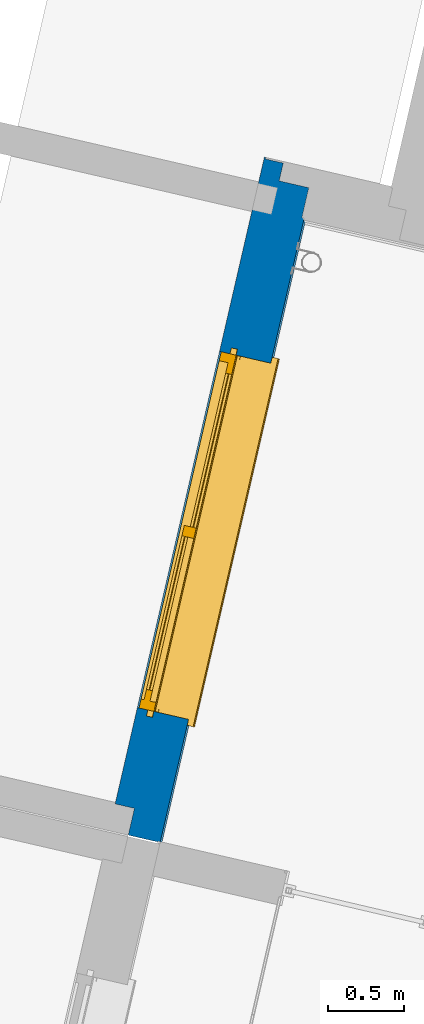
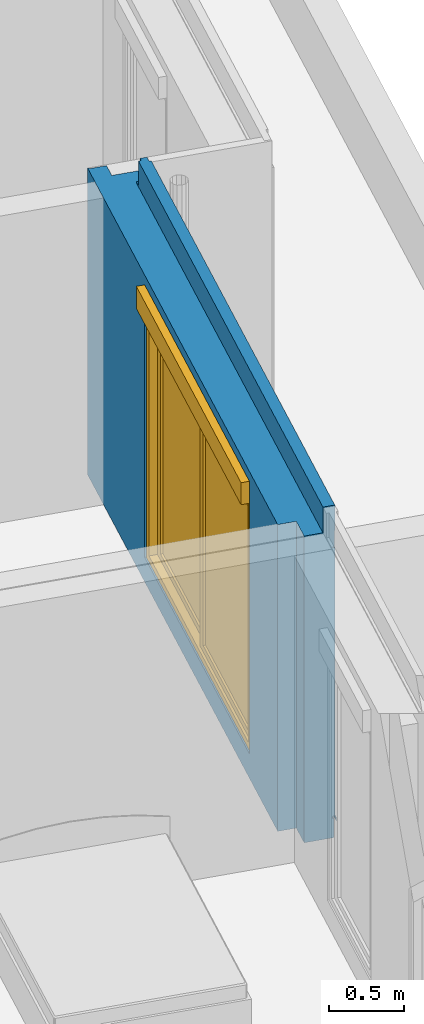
# One storey, part 26 of 119: 1 wall, 1 window, 1 opening.
"""IFC2X3 building model written with IfcOpenShell, lengths in metres."""

from ifc_helpers import new_model, entity, si_unit, converted_unit, derived_unit, money_unit, direction, frame, origin_with_axes, place, context, subcontext, project, spatial, open_shell, faceted_brep, surface_model, source, transform, mapped, material, material_list, type_object, element, fill, save


model = new_model("IFC2X3")

# Units and contexts
model_context = context("Model", 3, precision=1e-05, world=origin_with_axes(), true_north=direction((0.0, 1.0)))
body_context = subcontext(model_context, "Body", "Model", "MODEL_VIEW")
ifc_project = project(units=[si_unit("LENGTHUNIT", "METRE"), si_unit("AREAUNIT", "SQUARE_METRE"), si_unit("VOLUMEUNIT", "CUBIC_METRE"), converted_unit("PLANEANGLEUNIT", "DEGREE", entity("IfcPlaneAngleMeasure", 0.0174532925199), si_unit("PLANEANGLEUNIT", "RADIAN"), dimensions=[0, 0, 0, 0, 0, 0, 0]), si_unit("SOLIDANGLEUNIT", "STERADIAN"), money_unit("EUR"), converted_unit("TIMEUNIT", "Year", entity("IfcTimeMeasure", 31556926.0), si_unit("TIMEUNIT", "SECOND"), dimensions=[0, 0, 1, 0, 0, 0, 0]), si_unit("MASSUNIT", "GRAM", prefix="KILO"), si_unit("THERMODYNAMICTEMPERATUREUNIT", "DEGREE_CELSIUS"), si_unit("LUMINOUSINTENSITYUNIT", "LUMEN"), si_unit("ENERGYUNIT", "JOULE", prefix="MEGA"), derived_unit("THERMALCONDUCTANCEUNIT", [(si_unit("POWERUNIT", "WATT"), 1), (si_unit("LENGTHUNIT", "METRE"), -1), (si_unit("THERMODYNAMICTEMPERATUREUNIT", "KELVIN"), -1)]), derived_unit("SPECIFICHEATCAPACITYUNIT", [(si_unit("ENERGYUNIT", "JOULE"), 1), (si_unit("MASSUNIT", "GRAM", prefix="KILO"), -1), (si_unit("THERMODYNAMICTEMPERATUREUNIT", "KELVIN"), -1)]), derived_unit("MASSDENSITYUNIT", [(si_unit("MASSUNIT", "GRAM", prefix="KILO"), 1), (si_unit("VOLUMEUNIT", "CUBIC_METRE"), -1)])], contexts=[model_context])

# Site, building, storey
site_placement = place(None, origin_with_axes())
site = spatial("IfcSite", under=ifc_project, at=site_placement, Name="Site", CompositionType="ELEMENT")
building_placement = place(site_placement, origin_with_axes())
building = spatial("IfcBuilding", under=site, at=building_placement, Name="Bâtiment", CompositionType="ELEMENT")
storey_placement = place(building_placement, origin_with_axes())
storey = spatial("IfcBuildingStorey", under=building, at=storey_placement, Name="Rez-de-chaussée", CompositionType="ELEMENT", Elevation=0.0)

# Wall, opening, window
ifc_material_1 = material(Name="Métal - Aluminium")
ifc_material_2 = material(Name="Finition ext - Crépis")
ifc_material_3 = material(Name="Etanchéité - Bitume")
ifc_material_4 = material(Name="Béton cellulaire")
ifc_material_5 = material(Name="Mortier")
ifc_material_6 = material(Name="Isolation - Polystyrène expansé")
ifc_material_7 = material(Name="Bloc ELITHERM")
ifc_material_8 = material(Name="Isolation - Polystyrène extrudé")
ifc_material_9 = material(Name="Finition int - Plaque de plâtre")
ifc_material_list = material_list([ifc_material_1, ifc_material_2, ifc_material_3, ifc_material_4, ifc_material_5, ifc_material_6, ifc_material_7, ifc_material_8, ifc_material_9])
wall_type = type_object("IfcWallType", Name="Mur ALKERN + planelle 21 TERRASSE RDC 356 x 2720", PredefinedType="USERDEFINED")
wall_placement = place(storey_placement, frame((-1.10169279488, 6.64422506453, 0.0), z_axis=(0.0, 0.0, 1.0), x_axis=(-0.224876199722, -0.974387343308, 0.0)))
wall = element("IfcWall", 1, at=wall_placement, inside=storey, type_object=wall_type, material=ifc_material_list, Name="Mue bloc ALKERN isolé", ObjectType="SOLIDWALL", context=body_context, shape_type="Brep", body=[
    faceted_brep([(0.94848943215, -0.03, 0.170774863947), (0.94848943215, -0.0035607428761, 0.162931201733), (-0.00839013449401, -0.0035607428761, 0.162931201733), (-0.0300000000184, -0.025413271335, 0.169414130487), (-0.031045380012, -0.0264705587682, 0.169727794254), (-0.0310453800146, -0.03, 0.170774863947), (0.94848943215, -0.0035607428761, 0.14), (0.94848943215, -0.0300000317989, 0.176532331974), (0.94848943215, -0.0300000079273, 0.2), (0.94848943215, -0.0310453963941, 0.2), (0.94848943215, -0.0310453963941, 0.169727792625), (0.94848943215, -0.03, 0.169414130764), (0.94848943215, -0.00479482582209, 0.161852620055), (0.94848943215, -0.00479482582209, 0.14), (3.34848943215, -0.0035607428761, 0.14), (3.34848943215, -0.0035607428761, 0.162931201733), (4.17743925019, -0.0035607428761, 0.162931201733), (4.17743925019, -0.0035607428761, 0.133633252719), (-0.00479484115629, -0.0035607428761, 0.133633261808), (-0.00479484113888, -0.0035607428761, 0.160000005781), (-0.00479484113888, -0.0035607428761, 0.161852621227), (-0.00479484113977, -0.00479482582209, 0.161852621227), (-0.0300000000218, -0.03, 0.169414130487), (-0.0310453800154, -0.0310453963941, 0.169727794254), (-0.0310453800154, -0.0310453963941, 0.176532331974), (-0.0310453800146, -0.0300000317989, 0.176532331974), (-0.0310453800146, -0.03, 0.207793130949), (0.94848943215, -0.03, 0.207793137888), (0.94848943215, -0.0310453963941, 0.207793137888), (-0.0310453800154, -0.0310453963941, 0.207793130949), (-0.00479484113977, -0.00479482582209, 0.160000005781), (-0.00479484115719, -0.00479482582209, 0.133633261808), (4.17743925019, -0.00479482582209, 0.133633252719), (4.17743925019, -0.00479482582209, 0.161852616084), (3.34848943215, -0.00479482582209, 0.161852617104), (3.34848943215, -0.00479482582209, 0.14), (3.34848943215, -0.03, 0.170774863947), (3.34848943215, -0.03, 0.169414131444), (3.34848943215, -0.0310453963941, 0.169727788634), (3.34848943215, -0.0310453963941, 0.2), (3.34848943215, -0.0300000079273, 0.2), (3.34848943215, -0.0300000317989, 0.176532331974), (4.17743925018, -0.03, 0.170774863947), (4.17743925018, -0.03, 0.169414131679), (4.17743925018, -0.0300000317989, 0.176532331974), (4.17743925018, -0.03, 0.207793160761), (4.17743925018, -0.0310453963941, 0.207793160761), (4.17743925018, -0.0310453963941, 0.169727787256), (3.34848943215, -0.0310453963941, 0.207793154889), (3.34848943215, -0.03, 0.207793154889)], [[[0, 1, 2, 3, 4, 5]], [[6, 1, 0, 7, 8, 9, 10, 11, 12, 13]], [[14, 15, 16, 17, 18, 19, 20, 2, 1, 6]], [[3, 2, 20, 21, 22]], [[23, 4, 3, 22]], [[23, 24, 25, 5, 4]], [[7, 0, 5, 25]], [[8, 7, 25, 26, 27]], [[9, 8, 27, 28]], [[10, 9, 28, 29, 24, 23]], [[11, 10, 23, 22]], [[12, 11, 22, 21]], [[13, 12, 21, 30, 31, 32, 33, 34, 35]], [[14, 6, 13, 35]], [[36, 15, 14, 35, 34, 37, 38, 39, 40, 41]], [[15, 36, 42, 16]], [[43, 33, 32, 17, 16, 42, 44, 45, 46, 47]], [[31, 18, 17, 32]], [[30, 19, 18, 31]], [[20, 19, 30, 21]], [[25, 24, 29, 26]], [[27, 26, 29, 28]], [[37, 34, 33, 43]], [[38, 37, 43, 47]], [[39, 38, 47, 46, 48]], [[40, 39, 48, 49]], [[41, 40, 49, 45, 44]], [[36, 41, 44, 42]], [[48, 46, 45, 49]]]),
    faceted_brep([(0.94848943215, -0.0149999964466, 0.2), (0.94848943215, -0.0150000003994, 0.176532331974), (-0.0300000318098, -0.0149999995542, 0.176532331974), (-0.0300000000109, -0.0149999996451, 0.207793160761), (-0.0300000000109, -0.0150000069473, 2.72), (4.17743925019, -0.0150000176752, 2.72000000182), (4.17743925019, -0.0150000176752, 2.51), (4.17243923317, -0.0150000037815, 2.51), (4.17243923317, -0.0150000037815, 2.375), (4.17743925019, -0.0150000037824, 2.375), (4.17743925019, -0.0150000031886, 0.176532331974), (3.34848943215, -0.0150000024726, 0.176532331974), (3.34848943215, -0.0149999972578, 0.2), (3.34848943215, -0.0150000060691, 2.25), (0.94848943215, -0.0150000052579, 2.25), (0.94848943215, -0.0300000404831, 0.2), (0.94848943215, -0.0300000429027, 0.176532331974), (-0.0300000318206, -0.0300000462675, 0.176532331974), (-0.0300000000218, -0.0300000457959, 0.207793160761), (-0.0300000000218, -0.0300000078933, 2.72), (4.17743925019, -0.0299999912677, 2.72000000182), (4.17743925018, -0.0300000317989, 2.51), (4.17243963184, -0.0299999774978, 2.51), (4.17243963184, -0.0299999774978, 2.375), (4.17743925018, -0.0299999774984, 2.375), (4.17743925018, -0.0300000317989, 0.176532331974), (3.34848943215, -0.0300000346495, 0.176532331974), (3.34848943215, -0.030000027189, 0.2), (3.34848943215, -0.0299999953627, 2.25), (0.94848943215, -0.0300000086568, 2.25)], [[[0, 1, 2, 3, 4, 5, 6, 7, 8, 9, 10, 11, 12, 13, 14]], [[1, 0, 15, 16]], [[1, 16, 17, 2]], [[18, 3, 2, 17]], [[18, 19, 4, 3]], [[5, 4, 19, 20]], [[5, 20, 21, 6]], [[21, 22, 7, 6]], [[23, 8, 7, 22]], [[9, 8, 23, 24]], [[24, 25, 10, 9]], [[26, 11, 10, 25]], [[27, 12, 11, 26]], [[12, 27, 28, 13]], [[13, 28, 29, 14]], [[15, 0, 14, 29]], [[16, 15, 29, 28, 27, 26, 25, 24, 23, 22, 21, 20, 19, 18, 17]]]),
    faceted_brep([(0.94848943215, -0.0300000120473, 0.160000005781), (0.94848943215, -0.02, 0.160000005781), (-0.0300000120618, -0.02, 0.160000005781), (-0.0300000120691, -0.0300000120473, 0.160000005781), (0.94848943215, -0.02, 0.14), (0.94848943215, -0.0299999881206, 0.14), (3.34848943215, -0.02, 0.14), (3.34848943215, -0.02, 0.160000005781), (4.17743925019, -0.02, 0.160000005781), (4.17743925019, -0.02, 0.0), (2.7816257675, -0.02, 0.0), (2.7816257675, -0.02, 0.01), (-0.0299999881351, -0.02, 0.01), (-0.0299999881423, -0.0299999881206, 0.01), (-0.0299999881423, -0.0299999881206, 0.0), (4.17743925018, -0.0300000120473, 0.0), (4.17743925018, -0.0300000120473, 0.160000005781), (3.34848943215, -0.0300000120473, 0.160000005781), (3.34848943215, -0.0299999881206, 0.14)], [[[0, 1, 2, 3]], [[4, 1, 0, 5]], [[6, 7, 8, 9, 10, 11, 12, 2, 1, 4]], [[13, 3, 2, 12]], [[5, 0, 3, 13, 14, 15, 16, 17, 18]], [[6, 4, 5, 18]], [[17, 7, 6, 18]], [[7, 17, 16, 8]], [[15, 9, 8, 16]], [[10, 9, 15, 14]], [[13, 11, 10, 14]], [[13, 12, 11]]]),
    faceted_brep([(-0.0780000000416, -0.03, 2.51999999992), (-0.0780000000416, -0.03, 2.72), (4.17743925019, -0.03, 2.72000000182), (4.17743925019, -0.03, 2.51999999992), (-0.0780000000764, -0.0780000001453, 2.72), (-0.0780000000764, -0.0780000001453, 2.51999999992), (4.17743925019, -0.0780000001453, 2.72000000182), (4.17743925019, -0.0780000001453, 2.51999999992)], [[[0, 1, 2, 3]], [[4, 1, 0, 5]], [[1, 4, 6, 2]], [[7, 3, 2, 6]], [[5, 0, 3, 7]], [[4, 5, 7, 6]]]),
    faceted_brep([(4.17743925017, -0.098000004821, 2.51), (4.17743925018, -0.03, 2.51), (4.17743925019, -0.03, 2.52), (4.17743925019, -0.098000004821, 2.52), (4.17743925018, -0.03, 2.50955000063), (4.17743925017, -0.098, 2.50955000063), (-0.0980000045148, -0.03, 2.50955002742), (-0.0980000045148, -0.03, 2.52), (-0.0980000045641, -0.0980000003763, 2.52), (-0.0980000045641, -0.098, 2.50955002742)], [[[0, 1, 2, 3]], [[4, 1, 0, 5]], [[1, 4, 6, 7, 2]], [[7, 8, 3, 2]], [[5, 0, 3, 8, 9]], [[4, 5, 9, 6]], [[8, 7, 6, 9]]]),
    faceted_brep([(-0.0515607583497, -0.0780000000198, 2.51999999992), (-0.0515607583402, -0.0780000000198, 2.72), (4.17743925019, -0.0780000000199, 2.72000000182), (4.17743925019, -0.0780000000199, 2.51999999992), (-0.0515607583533, -0.0979999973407, 2.72), (-0.0515607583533, -0.0979999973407, 2.51999999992), (4.17743925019, -0.098000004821, 2.72000000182), (4.17743925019, -0.098000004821, 2.51999999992)], [[[0, 1, 2, 3]], [[4, 1, 0, 5]], [[1, 4, 6, 2]], [[7, 3, 2, 6]], [[5, 0, 3, 7]], [[4, 5, 7, 6]]]),
    faceted_brep([(0.94848943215, -0.0310453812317, 0.169727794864), (0.94848943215, -0.03, 0.169414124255), (-0.229999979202, -0.03, 0.169414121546), (-0.229999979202, -0.0310453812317, 0.169727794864), (0.94848943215, -0.0300000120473, 0.160000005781), (0.94848943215, -0.0310453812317, 0.2), (0.94848943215, -0.229999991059, 0.2), (0.94848943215, -0.229999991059, 0.14), (0.94848943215, -0.0300000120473, 0.14), (-0.229999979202, -0.0300000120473, 0.160000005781), (-0.229999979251, -0.0979999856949, 2.50955001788), (-0.229999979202, -0.03, 2.50955001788), (-0.229999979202, -0.03, 0.207793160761), (-0.229999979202, -0.0310453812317, 0.207793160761), (-0.229999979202, -0.03, 0.0), (-0.229999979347, -0.229999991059, 0.0), (-0.229999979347, -0.229999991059, 2.50955001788), (0.94848943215, -0.0310453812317, 0.207793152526), (0.94848943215, -0.03, 0.207793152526), (0.94848943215, -0.03, 2.25), (0.94848943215, -0.218560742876, 2.25), (0.94848943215, -0.229999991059, 2.25), (4.17743925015, -0.229999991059, 2.50955001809), (4.17743925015, -0.229999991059, 0.0), (0.94848943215, -0.229999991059, 2.43), (3.34848943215, -0.229999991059, 2.43), (3.34848943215, -0.229999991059, 2.25), (3.34848943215, -0.229999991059, 0.2), (3.34848943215, -0.229999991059, 0.14), (3.34848943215, -0.0300000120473, 0.14), (3.34848943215, -0.0300000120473, 0.160000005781), (4.17743925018, -0.0300000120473, 0.160000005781), (4.17743925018, -0.03, 0.0), (4.17743925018, -0.03, 2.50955001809), (4.17743925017, -0.0979999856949, 2.50955001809), (4.17743925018, -0.03, 0.207793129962), (3.34848943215, -0.03, 0.207793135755), (3.34848943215, -0.03, 2.25), (3.34848943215, -0.218560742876, 2.25), (0.94848943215, -0.218560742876, 2.43), (4.17743925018, -0.03, 0.169414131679), (4.17743925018, -0.0310453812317, 0.169727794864), (4.17743925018, -0.0310453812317, 0.207793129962), (3.34848943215, -0.218560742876, 2.43), (3.34848943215, -0.0310453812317, 0.2), (3.34848943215, -0.0310453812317, 0.207793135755), (3.34848943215, -0.0310453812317, 0.169727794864), (3.34848943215, -0.03, 0.169414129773)], [[[0, 1, 2, 3]], [[4, 1, 0, 5, 6, 7, 8]], [[1, 4, 9, 2]], [[10, 11, 12, 13, 3, 2, 9, 14, 15, 16]], [[5, 0, 3, 13, 17]], [[6, 5, 17, 18, 19, 20, 21]], [[22, 16, 15, 23], [7, 6, 21, 24, 25, 26, 27, 28]], [[29, 8, 7, 28]], [[29, 30, 31, 32, 14, 9, 4, 8]], [[33, 11, 10, 34]], [[19, 18, 12, 11, 33, 35, 36, 37]], [[13, 12, 18, 17]], [[14, 32, 23, 15]], [[34, 10, 16, 22]], [[20, 19, 37, 38]], [[20, 39, 24, 21]], [[40, 41, 42, 35, 33, 34, 22, 23, 32, 31]], [[24, 39, 43, 25]], [[26, 25, 43, 38]], [[44, 27, 26, 38, 37, 36, 45]], [[46, 47, 30, 29, 28, 27, 44]], [[30, 47, 40, 31]], [[35, 42, 45, 36]], [[38, 43, 39, 20]], [[47, 46, 41, 40]], [[46, 44, 45, 42, 41]]]),
    faceted_brep([(0.94848943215, -0.289560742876, 0.2), (0.94848943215, -0.289560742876, 0.14), (0.94848943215, -0.22999997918, 0.14), (0.94848943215, -0.22999997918, 0.2), (0.94848943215, -0.22999997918, 2.25), (0.94848943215, -0.22999997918, 2.43), (0.94848943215, -0.350000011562, 2.43), (0.94848943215, -0.350000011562, 2.25), (0.94848943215, -0.350000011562, 0.2), (3.34848943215, -0.289560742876, 0.2), (3.34848943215, -0.289560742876, 0.14), (3.34848943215, -0.22999997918, 0.14), (-0.350000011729, -0.22999997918, 2.50955001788), (3.99743925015, -0.22999997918, 2.50955), (3.99743925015, -0.22999997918, 0.0), (-0.350000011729, -0.22999997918, 0.0), (3.34848943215, -0.22999997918, 0.2), (3.34848943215, -0.22999997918, 2.25), (3.34848943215, -0.22999997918, 2.43), (3.34848943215, -0.350000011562, 2.43), (3.99743925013, -0.350000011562, 2.50955), (-0.350000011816, -0.350000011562, 2.50955001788), (-0.350000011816, -0.350000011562, 0.0), (3.99743925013, -0.350000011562, 0.0), (3.34848943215, -0.350000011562, 2.25), (3.34848943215, -0.350000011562, 0.2)], [[[0, 1, 2, 3, 4, 5, 6, 7, 8]], [[0, 9, 10, 1]], [[11, 2, 1, 10]], [[12, 13, 14, 15], [11, 16, 17, 18, 5, 4, 3, 2]], [[18, 19, 6, 5]], [[20, 21, 22, 23], [8, 7, 6, 19, 24, 25]], [[9, 0, 8, 25]], [[16, 11, 10, 9, 25, 24, 19, 18, 17]], [[21, 20, 13, 12]], [[14, 13, 20, 23]], [[15, 14, 23, 22]], [[22, 21, 12, 15]]]),
    faceted_brep([(3.99743925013, -0.350000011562, 0.0), (-0.360000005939, -0.350000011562, 0.0), (-0.360000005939, -0.350000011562, 2.50955002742), (3.99743925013, -0.350000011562, 2.50955), (3.34848943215, -0.350000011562, 2.25), (3.34848943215, -0.350000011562, 2.43), (0.94848943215, -0.350000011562, 2.43), (0.94848943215, -0.350000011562, 2.25), (0.94848943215, -0.350000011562, 0.2), (3.34848943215, -0.350000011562, 0.2), (3.99743925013, -0.359999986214, 0.0), (-0.360000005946, -0.359999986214, 0.0), (-0.360000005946, -0.359999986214, 2.50955002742), (3.99743925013, -0.359999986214, 2.50955), (3.34848943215, -0.359999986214, 2.25), (3.34848943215, -0.359999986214, 2.43), (0.94848943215, -0.359999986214, 2.43), (0.94848943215, -0.359999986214, 2.25), (0.94848943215, -0.359999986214, 0.2), (3.34848943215, -0.359999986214, 0.2)], [[[0, 1, 2, 3], [4, 5, 6, 7, 8, 9]], [[10, 11, 1, 0]], [[12, 2, 1, 11]], [[3, 2, 12, 13]], [[13, 10, 0, 3]], [[5, 4, 14, 15]], [[6, 5, 15, 16]], [[7, 6, 16, 17]], [[7, 17, 18, 8]], [[8, 18, 19, 9]], [[14, 4, 9, 19]], [[11, 10, 13, 12], [15, 14, 19, 18, 17, 16]]]),
])
opening_placement = place(wall_placement, frame((2.14848943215, 0.0, 0.2), z_axis=(0.0, 0.0, 1.0), x_axis=(1.0, 0.0, 0.0)))
opening = element("IfcOpeningElement", 2, at=opening_placement, cuts=wall, Name="MEN 03", context=body_context, shape_type="Brep", body=[
    faceted_brep([(-1.2, -0.248560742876, 0.0), (1.2, -0.248560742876, 0.0), (1.2, -0.849999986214, 0.0), (-1.2, -0.849999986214, 0.0), (-1.2, -0.248560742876, 2.05), (1.2, -0.248560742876, 2.05), (1.2, -0.849999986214, 2.05), (-1.2, -0.849999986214, 2.05)], [[[0, 1, 2, 3]], [[0, 4, 5, 1]], [[1, 5, 6, 2]], [[3, 2, 6, 7]], [[4, 0, 3, 7]], [[5, 4, 7, 6]]]),
    faceted_brep([(-1.2, -0.248560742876, 0.0), (-1.2, -0.248560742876, 2.05), (-1.2, 0.352878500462, 2.05), (-1.2, 0.352878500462, 0.0), (1.2, -0.248560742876, 0.0), (1.2, -0.248560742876, 2.05), (1.2, 0.352878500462, 2.05), (1.2, 0.352878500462, 0.0)], [[[0, 1, 2, 3]], [[0, 4, 5, 1]], [[1, 5, 6, 2]], [[3, 2, 6, 7]], [[4, 0, 3, 7]], [[5, 4, 7, 6]]]),
    faceted_brep([(-1.2, -0.248560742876, 0.0), (-1.2, -0.248560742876, 2.05), (-1.2, 0.352878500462, 2.05), (-1.2, 0.352878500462, 0.0), (1.2, -0.248560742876, 0.0), (1.2, -0.248560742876, 2.05), (1.2, 0.352878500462, 2.05), (1.2, 0.352878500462, 0.0)], [[[0, 1, 2, 3]], [[0, 4, 5, 1]], [[1, 5, 6, 2]], [[3, 2, 6, 7]], [[4, 0, 3, 7]], [[5, 4, 7, 6]]]),
    faceted_brep([(-1.2, -0.218560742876, 2.05), (1.2, -0.218560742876, 2.05), (1.2, -0.819999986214, 2.05), (-1.2, -0.819999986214, 2.05), (-1.2, -0.218560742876, 2.23), (1.2, -0.218560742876, 2.23), (1.2, -0.819999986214, 2.23), (-1.2, -0.819999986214, 2.23)], [[[0, 1, 2, 3]], [[0, 4, 5, 1]], [[1, 5, 6, 2]], [[3, 2, 6, 7]], [[4, 0, 3, 7]], [[5, 4, 7, 6]]]),
    faceted_brep([(-1.2, -0.289560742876, 0.0), (1.2, -0.289560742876, 0.0), (1.2, 0.311878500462, 0.0), (-1.2, 0.311878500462, 0.0), (-1.2, -0.289560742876, -0.06), (1.2, -0.289560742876, -0.06), (1.2, 0.311878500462, -0.06), (-1.2, 0.311878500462, -0.06)], [[[0, 1, 2, 3]], [[0, 4, 5, 1]], [[1, 5, 6, 2]], [[3, 2, 6, 7]], [[4, 0, 3, 7]], [[5, 4, 7, 6]]]),
])
window_style = type_object("IfcWindowStyle", Name="Baie générique 2017 v2", ConstructionType="NOTDEFINED", OperationType="NOTDEFINED", ParameterTakesPrecedence=False, Sizeable=False)
shared_shape = source(origin_with_axes(), body_context, "Body", "SurfaceModel", [
    faceted_brep([(1.2, 0.1, 0.0), (1.2, 0.0, 0.0), (-1.2, 0.0, 0.0), (-1.2, 0.1, 0.0), (1.2, 0.1, 2.05), (1.2, 0.0, 2.05), (-1.2, 0.0, 2.05), (1.14, 0.0, 0.05), (-1.14, 0.0, 0.05), (-1.14, 0.0, 2.0), (1.14, 0.0, 2.0), (-1.2, 0.1, 2.05), (1.14, 0.1, 0.05), (1.14, 0.1, 2.0), (-1.14, 0.1, 2.0), (-1.14, 0.1, 0.05)], [[[0, 1, 2, 3]], [[4, 5, 1, 0]], [[1, 5, 6, 2], [7, 8, 9, 10]], [[3, 2, 6, 11]], [[0, 3, 11, 4], [12, 13, 14, 15]], [[11, 6, 5, 4]], [[15, 8, 7, 12]], [[14, 9, 8, 15]], [[13, 10, 9, 14]], [[12, 7, 10, 13]]]),
    faceted_brep([(1.14, 0.04, 0.05), (-0.035, 0.04, 0.05), (-0.035, 0.04, 2.0), (1.14, 0.04, 2.0), (0.035, 0.04, 1.93), (0.035, 0.04, 0.1), (1.07, 0.04, 0.1), (1.07, 0.04, 1.93), (-0.035, 0.02, 0.05), (1.14, 0.02, 0.05), (1.14, 0.0, 0.05), (-0.035, 0.0, 0.05), (-0.035, 0.02, 2.0), (-0.035, 0.0, 2.0), (1.14, 0.0, 2.0), (1.14, 0.02, 2.0), (0.035, 0.0, 1.93), (0.035, 0.0, 0.1), (1.07, 0.0, 0.1), (1.07, 0.0, 1.93)], [[[0, 1, 2, 3], [4, 5, 6, 7]], [[8, 1, 0, 9, 10, 11]], [[12, 2, 1, 8, 11, 13]], [[13, 14, 15, 3, 2, 12]], [[14, 10, 9, 0, 3, 15]], [[4, 16, 17, 5]], [[17, 18, 6, 5]], [[18, 19, 7, 6]], [[7, 19, 16, 4]], [[13, 11, 10, 14], [17, 16, 19, 18]]]),
    surface_model("IfcShellBasedSurfaceModel", [(1.14, 0.04, 0.05), (-0.035, 0.04, 0.05), (-0.035, 0.04, 2.0), (1.14, 0.04, 2.0), (1.07, 0.04, 0.1), (1.07, 0.04, 1.93), (0.035, 0.04, 1.93), (0.035, 0.04, 0.1)], [open_shell([[[0, 1, 2, 3], [4, 5, 6, 7]]])]),
    surface_model("IfcShellBasedSurfaceModel", [(1.14, 0.0, 0.05), (-0.035, 0.0, 0.05), (-0.035, 0.0, 2.0), (1.14, 0.0, 2.0), (1.07, 0.0, 0.1), (1.07, 0.0, 1.93), (0.035, 0.0, 1.93), (0.035, 0.0, 0.1)], [open_shell([[[0, 1, 2, 3], [4, 5, 6, 7]]])]),
    faceted_brep([(1.07, 0.0225, 0.1), (1.07, 0.0175, 0.1), (0.035, 0.0175, 0.1), (0.035, 0.0225, 0.1), (1.07, 0.0225, 1.93), (1.07, 0.0175, 1.93), (0.035, 0.0175, 1.93), (0.035, 0.0225, 1.93)], [[[0, 1, 2, 3]], [[4, 5, 1, 0]], [[1, 5, 6, 2]], [[3, 2, 6, 7]], [[0, 3, 7, 4]], [[7, 6, 5, 4]]]),
    faceted_brep([(0.035, 0.08, 0.05), (-1.14, 0.08, 0.05), (-1.14, 0.08, 2.0), (0.035, 0.08, 2.0), (-1.07, 0.08, 1.93), (-1.07, 0.08, 0.1), (-0.035, 0.08, 0.1), (-0.035, 0.08, 1.93), (-1.14, 0.06, 0.05), (0.035, 0.06, 0.05), (0.035, 0.04, 0.05), (-1.14, 0.04, 0.05), (-1.14, 0.06, 2.0), (-1.14, 0.04, 2.0), (0.035, 0.04, 2.0), (0.035, 0.06, 2.0), (-1.07, 0.04, 1.93), (-1.07, 0.04, 0.1), (-0.035, 0.04, 0.1), (-0.035, 0.04, 1.93)], [[[0, 1, 2, 3], [4, 5, 6, 7]], [[8, 1, 0, 9, 10, 11]], [[12, 2, 1, 8, 11, 13]], [[13, 14, 15, 3, 2, 12]], [[14, 10, 9, 0, 3, 15]], [[4, 16, 17, 5]], [[17, 18, 6, 5]], [[18, 19, 7, 6]], [[7, 19, 16, 4]], [[13, 11, 10, 14], [17, 16, 19, 18]]]),
    surface_model("IfcShellBasedSurfaceModel", [(0.035, 0.08, 0.05), (-1.14, 0.08, 0.05), (-1.14, 0.08, 2.0), (0.035, 0.08, 2.0), (-0.035, 0.08, 0.1), (-0.035, 0.08, 1.93), (-1.07, 0.08, 1.93), (-1.07, 0.08, 0.1)], [open_shell([[[0, 1, 2, 3], [4, 5, 6, 7]]])]),
    surface_model("IfcShellBasedSurfaceModel", [(0.035, 0.04, 0.05), (-1.14, 0.04, 0.05), (-1.14, 0.04, 2.0), (0.035, 0.04, 2.0), (-0.035, 0.04, 0.1), (-0.035, 0.04, 1.93), (-1.07, 0.04, 1.93), (-1.07, 0.04, 0.1)], [open_shell([[[0, 1, 2, 3], [4, 5, 6, 7]]])]),
    faceted_brep([(-0.035, 0.0625, 0.1), (-0.035, 0.0575, 0.1), (-1.07, 0.0575, 0.1), (-1.07, 0.0625, 0.1), (-0.035, 0.0625, 1.93), (-0.035, 0.0575, 1.93), (-1.07, 0.0575, 1.93), (-1.07, 0.0625, 1.93)], [[[0, 1, 2, 3]], [[4, 5, 1, 0]], [[1, 5, 6, 2]], [[3, 2, 6, 7]], [[0, 3, 7, 4]], [[7, 6, 5, 4]]]),
    faceted_brep([(1.2, -0.03, 0.0), (1.2, -0.03, 2.05), (1.175, -0.03, 2.05), (1.175, -0.03, 0.0), (1.2, -0.002, 0.0), (1.2, -0.002, 2.05), (1.175, -0.002, 2.05), (1.175, -0.004, 2.05), (1.198, -0.004, 2.05), (1.198, -0.028, 2.05), (1.175, -0.028, 2.05), (1.175, -0.028, 0.0), (1.198, -0.028, 0.0), (1.198, -0.004, 0.0), (1.175, -0.004, 0.0), (1.175, -0.002, 0.0)], [[[0, 1, 2, 3]], [[4, 5, 1, 0]], [[1, 5, 6, 7, 8, 9, 10, 2]], [[3, 2, 10, 11]], [[0, 3, 11, 12, 13, 14, 15, 4]], [[15, 6, 5, 4]], [[14, 7, 6, 15]], [[13, 8, 7, 14]], [[12, 9, 8, 13]], [[11, 10, 9, 12]]]),
    faceted_brep([(-1.2, -0.03, 0.0), (-1.175, -0.03, 0.0), (-1.175, -0.03, 2.05), (-1.2, -0.03, 2.05), (-1.2, -0.002, 0.0), (-1.175, -0.002, 0.0), (-1.175, -0.004, 0.0), (-1.198, -0.004, 0.0), (-1.198, -0.028, 0.0), (-1.175, -0.028, 0.0), (-1.175, -0.028, 2.05), (-1.198, -0.028, 2.05), (-1.198, -0.004, 2.05), (-1.175, -0.004, 2.05), (-1.175, -0.002, 2.05), (-1.2, -0.002, 2.05)], [[[0, 1, 2, 3]], [[0, 4, 5, 6, 7, 8, 9, 1]], [[1, 9, 10, 2]], [[3, 2, 10, 11, 12, 13, 14, 15]], [[4, 0, 3, 15]], [[5, 4, 15, 14]], [[6, 5, 14, 13]], [[7, 6, 13, 12]], [[8, 7, 12, 11]], [[9, 8, 11, 10]]]),
    faceted_brep([(-1.198, -0.028, 2.05), (-1.198, -0.028, 2.228), (1.198, -0.028, 2.228), (1.198, -0.028, 2.05), (-1.198, -0.03, 2.05), (-1.198, -0.03, 2.23), (-1.198, 0.17, 2.23), (-1.198, 0.17, 2.05), (-1.198, 0.168, 2.05), (-1.198, 0.168, 2.228), (1.198, 0.168, 2.228), (1.198, 0.168, 2.05), (1.198, 0.17, 2.05), (1.198, 0.17, 2.23), (1.198, -0.03, 2.23), (1.198, -0.03, 2.05)], [[[0, 1, 2, 3]], [[0, 4, 5, 6, 7, 8, 9, 1]], [[1, 9, 10, 2]], [[3, 2, 10, 11, 12, 13, 14, 15]], [[4, 0, 3, 15]], [[5, 4, 15, 14]], [[6, 5, 14, 13]], [[7, 6, 13, 12]], [[8, 7, 12, 11]], [[9, 8, 11, 10]]]),
    faceted_brep([(-1.198, 0.0724697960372, 2.12436337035), (-1.198, 0.0555495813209, 2.12050144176), (-1.198, 0.041980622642, 2.13132232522), (-1.198, 0.041980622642, 2.14867767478), (-1.198, 0.0555495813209, 2.15949855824), (-1.198, 0.0724697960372, 2.15563662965), (-1.198, 0.08, 2.14), (1.198, 0.0724697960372, 2.12436337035), (1.198, 0.0555495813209, 2.12050144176), (1.198, 0.041980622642, 2.13132232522), (1.198, 0.041980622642, 2.14867767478), (1.198, 0.0555495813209, 2.15949855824), (1.198, 0.0724697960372, 2.15563662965), (1.198, 0.08, 2.14)], [[[0, 1, 2, 3, 4, 5, 6]], [[1, 0, 7, 8]], [[2, 1, 8, 9]], [[3, 2, 9, 10]], [[4, 3, 10, 11]], [[5, 4, 11, 12]], [[6, 5, 12, 13]], [[0, 6, 13, 7]], [[7, 13, 12, 11, 10, 9, 8]]]),
    faceted_brep([(-1.188, 0.130275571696, 2.10615706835), (-1.188, 0.108632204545, 2.07901714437), (-1.188, 0.0773566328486, 2.06395562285), (-1.188, 0.0426433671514, 2.06395562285), (-1.188, 0.011367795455, 2.07901714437), (-1.188, -0.0102755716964, 2.10615706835), (-1.188, -0.018, 2.14), (-1.188, -0.0102755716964, 2.17384293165), (-1.188, 0.011367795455, 2.20098285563), (-1.188, 0.0426433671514, 2.21604437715), (-1.188, 0.0773566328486, 2.21604437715), (-1.188, 0.108632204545, 2.20098285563), (-1.188, 0.130275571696, 2.17384293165), (-1.188, 0.138, 2.14), (1.188, 0.130275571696, 2.10615706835), (1.188, 0.108632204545, 2.07901714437), (1.188, 0.0773566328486, 2.06395562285), (1.188, 0.0426433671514, 2.06395562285), (1.188, 0.011367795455, 2.07901714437), (1.188, -0.0102755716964, 2.10615706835), (1.188, -0.018, 2.14), (1.188, -0.0102755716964, 2.17384293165), (1.188, 0.011367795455, 2.20098285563), (1.188, 0.0426433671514, 2.21604437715), (1.188, 0.0773566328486, 2.21604437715), (1.188, 0.108632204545, 2.20098285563), (1.188, 0.130275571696, 2.17384293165), (1.188, 0.138, 2.14)], [[[0, 1, 2, 3, 4, 5, 6, 7, 8, 9, 10, 11, 12, 13]], [[1, 0, 14, 15]], [[2, 1, 15, 16]], [[3, 2, 16, 17]], [[4, 3, 17, 18]], [[5, 4, 18, 19]], [[6, 5, 19, 20]], [[7, 6, 20, 21]], [[8, 7, 21, 22]], [[9, 8, 22, 23]], [[10, 9, 23, 24]], [[11, 10, 24, 25]], [[12, 11, 25, 26]], [[13, 12, 26, 27]], [[0, 13, 27, 14]], [[14, 27, 26, 25, 24, 23, 22, 21, 20, 19, 18, 17, 16, 15]]]),
    faceted_brep([(-1.2, 0.17, 2.05), (-1.2, 0.17, 2.23), (-1.198, 0.17, 2.23), (-1.198, 0.17, 2.05), (-1.2, -0.03, 2.05), (-1.2, -0.03, 2.23), (-1.198, -0.03, 2.23), (-1.198, -0.03, 2.05)], [[[0, 1, 2, 3]], [[0, 4, 5, 1]], [[1, 5, 6, 2]], [[3, 2, 6, 7]], [[4, 0, 3, 7]], [[5, 4, 7, 6]]]),
    faceted_brep([(1.198, 0.17, 2.05), (1.198, 0.17, 2.23), (1.2, 0.17, 2.23), (1.2, 0.17, 2.05), (1.198, -0.03, 2.05), (1.198, -0.03, 2.23), (1.2, -0.03, 2.23), (1.2, -0.03, 2.05)], [[[0, 1, 2, 3]], [[0, 4, 5, 1]], [[1, 5, 6, 2]], [[3, 2, 6, 7]], [[4, 0, 3, 7]], [[5, 4, 7, 6]]]),
    faceted_brep([(-1.198, -0.004, 2.05), (-1.198, 0.168, 2.05), (1.198, 0.168, 2.05), (1.198, -0.004, 2.05), (-1.198, -0.004, 2.052), (-1.198, 0.168, 2.052), (1.198, 0.168, 2.052), (1.198, -0.004, 2.052)], [[[0, 1, 2, 3]], [[0, 4, 5, 1]], [[1, 5, 6, 2]], [[3, 2, 6, 7]], [[4, 0, 3, 7]], [[5, 4, 7, 6]]]),
    faceted_brep([(-1.188, -0.006, 2.05), (-1.188, -0.006, 2.14), (1.188, -0.006, 2.14), (1.188, -0.006, 2.05), (-1.188, -0.026, 2.05), (-1.188, -0.026, 2.14), (1.188, -0.026, 2.14), (1.188, -0.026, 2.05)], [[[0, 1, 2, 3]], [[1, 0, 4, 5]], [[2, 1, 5, 6]], [[3, 2, 6, 7]], [[4, 0, 3, 7]], [[5, 4, 7, 6]]]),
    faceted_brep([(-1.2, -0.00167949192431, -0.01), (1.2, -0.00167949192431, -0.01), (1.2, 0.0, -0.00373205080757), (1.24, 0.0, -0.00373205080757), (1.24, 0.001, 0.0), (-1.24, 0.001, 0.0), (-1.24, 0.0, -0.00373205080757), (-1.2, 0.0, -0.00373205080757), (-1.2, -0.009, -0.0173205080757), (1.2, -0.009, -0.0173205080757), (1.2, -0.233560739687, -0.02), (1.2, -0.233560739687, -0.06), (1.2, 0.0, -0.06), (1.2, -0.019, -0.02), (1.24, 0.0, -0.06), (1.24, 0.041, -0.06), (1.24, 0.041, 0.0), (-1.24, 0.041, 0.0), (-1.24, 0.041, -0.06), (-1.24, 0.0, -0.06), (-1.2, 0.0, -0.06), (-1.2, -0.233560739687, -0.06), (-1.2, -0.233560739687, -0.02), (-1.2, -0.019, -0.02), (1.24, -0.233560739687, -0.02), (1.24, -0.233560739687, -0.06), (1.24, -0.263560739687, -0.06), (-1.24, -0.263560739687, -0.06), (-1.24, -0.233560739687, -0.06), (-1.24, -0.233560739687, -0.02), (-1.24, -0.273560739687, -0.02), (1.24, -0.273560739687, -0.02), (1.24, -0.283560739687, -0.03), (1.24, -0.283560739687, -0.06), (1.24, -0.273560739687, -0.06), (1.24, -0.273560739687, -0.05), (1.24, -0.263560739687, -0.05), (1.24, -0.280631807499, -0.0229289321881), (-1.24, -0.263560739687, -0.05), (-1.24, -0.273560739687, -0.05), (-1.24, -0.273560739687, -0.06), (-1.24, -0.283560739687, -0.06), (-1.24, -0.283560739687, -0.03), (-1.24, -0.280631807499, -0.0229289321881)], [[[0, 1, 2, 3, 4, 5, 6, 7]], [[8, 9, 1, 0]], [[10, 11, 12, 2, 1, 9, 13]], [[3, 2, 12, 14]], [[4, 3, 14, 15, 16]], [[16, 17, 5, 4]], [[6, 5, 17, 18, 19]], [[19, 20, 7, 6]], [[7, 20, 21, 22, 23, 8, 0]], [[23, 13, 9, 8]], [[10, 24, 25, 11]], [[21, 20, 19, 18, 15, 14, 12, 11, 25, 26, 27, 28]], [[22, 29, 30, 31, 24, 10, 13, 23]], [[15, 18, 17, 16]], [[22, 21, 28, 29]], [[32, 33, 34, 35, 36, 26, 25, 24, 31, 37]], [[36, 38, 27, 26]], [[28, 27, 38, 39, 40, 41, 42, 43, 30, 29]], [[31, 30, 43, 37]], [[32, 42, 41, 33]], [[33, 41, 40, 34]], [[34, 40, 39, 35]], [[35, 39, 38, 36]], [[37, 43, 42, 32]]]),
])
window_placement = place(opening_placement, frame((1.2, 0.0, 0.0), z_axis=(0.0, 0.0, 1.0), x_axis=(-1.0, 0.0, 0.0)))
window = element("IfcWindow", 3, at=window_placement, inside=storey, type_object=window_style, Name="MEN 03", ObjectType="WINDOW", OverallHeight=2.05, OverallWidth=2.4, context=body_context, shape_type="MappedRepresentation", body=[
    mapped(shared_shape, transform((1.2, 0.248560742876, 0.0))),
])
fill(opening, window)

save(model, "model.ifc")
